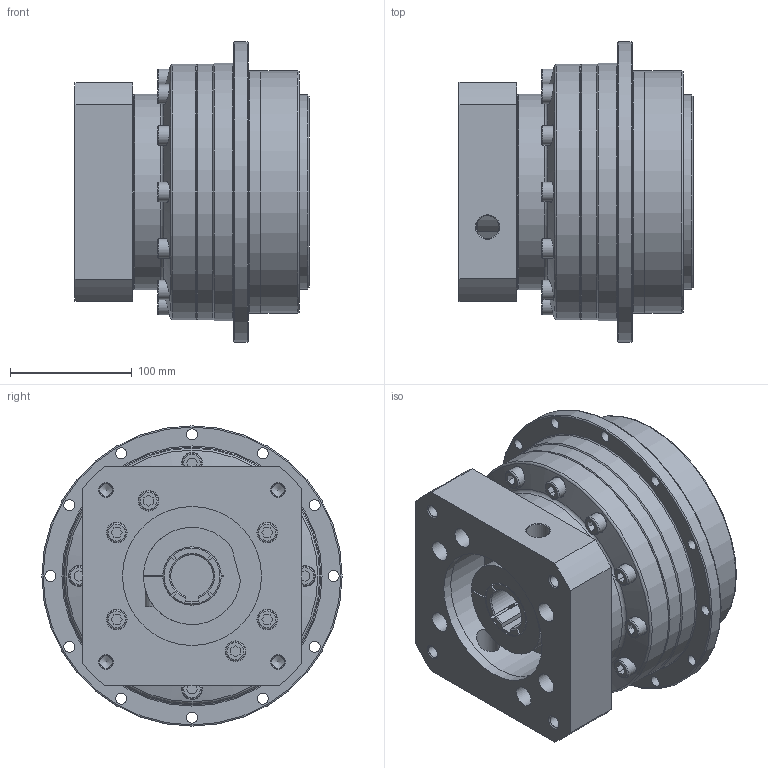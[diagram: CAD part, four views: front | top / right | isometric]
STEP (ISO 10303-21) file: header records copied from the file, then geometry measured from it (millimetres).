
FILE_DESCRIPTION(/* description */ ('STEP AP203'),/* implementation_level */ '2;1');
FILE_NAME(/* name */ 'WAD200-L1-4-P2-114.3-200-M12-35K10-81-180_M',/* time_stamp */ '2025-12-24T18:59:26+01:00',/* author */ ('License CC BY-ND 4.0'),/* organization */ ('CADENAS'),/* preprocessor_version */ 'ST-DEVELOPER v20',/* originating_system */ 'PARTsolutions',/* authorisation */ ' ');
FILE_SCHEMA (('CONFIG_CONTROL_DESIGN','FEATURE_BASED_PROCESS_PLANNING'));
Length unit declared in the file: millimetre
Products named in the file (7): WAD200-L1-4-P2-114.3-200-M12-35K10-81-180/M; WAD200-L1-4-P2-114.3-200-M12-35K10-81-180/M_Dummy; AD-200-L1_Flange; 200_rear; DZ180-114.3-200-M12x30-8-180-48.5; RLZ180-35K10-81-15_Input shaft4; 142-SJT(M10)-48_Lock sleeve
Assembly tree (6 placements, depth 2):
  WAD200-L1-4-P2-114.3-200-M12-35K10-81-180/M
    WAD200-L1-4-P2-114.3-200-M12-35K10-81-180/M_Dummy
    AD-200-L1_Flange
    200_rear
    DZ180-114.3-200-M12x30-8-180-48.5
    RLZ180-35K10-81-15_Input shaft4
    142-SJT(M10)-48_Lock sleeve
Bounding box: 192.5 x 247 x 247 mm (x, y, z)
Volume: 5470428.8 mm3; surface area: 443529 mm2
Topology: 5 solids, 5 shells, 443 faces, 1017 edges, 664 vertices
Faces by surface type: plane 240, cylinder 113, cone 54, torus 36
Full cylindrical faces by diameter (mm): 8.376 x11, 9 x12, 10 x3, 10.106 x4, 10.5 x1, 14.7 x1, 16 x30, 17 x18, 19 x2, 50 x1, 68 x1, 70 x1, 80 x1, 114.3 x1, 117 x1, 160 x1, 161 x1, 181.09 x1, 199.2 x1, 200 x1, 210 x2, 212 x1, 247 x1
Entity records: 11709 total; most frequent: CARTESIAN_POINT 2240, DIRECTION 1948, ORIENTED_EDGE 1594, EDGE_CURVE 797, AXIS2_PLACEMENT_3D 751, FACE_BOUND 743, EDGE_LOOP 727, VERTEX_POINT 630
